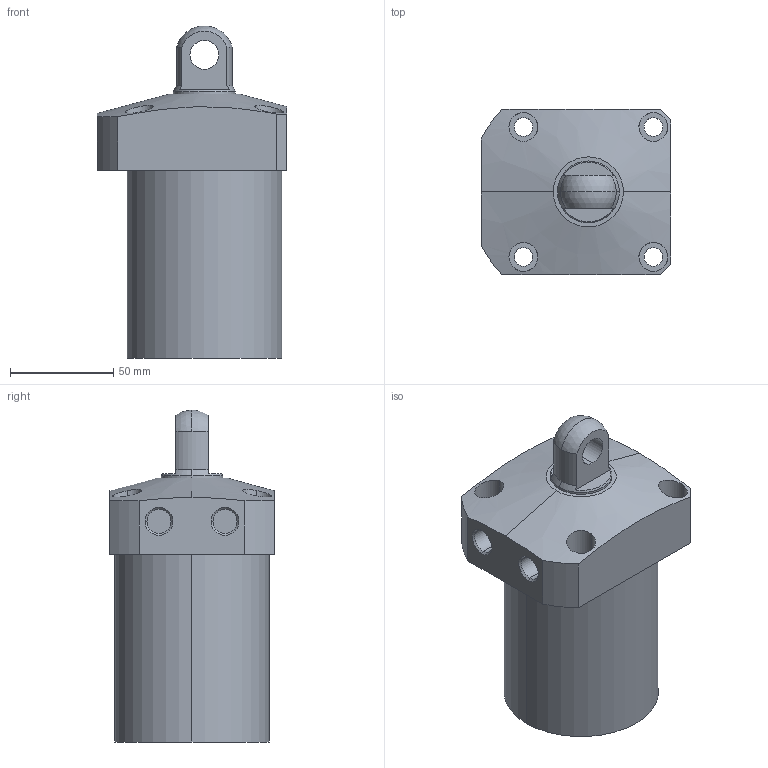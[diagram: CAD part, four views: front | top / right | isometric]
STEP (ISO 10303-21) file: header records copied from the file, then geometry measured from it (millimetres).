
FILE_DESCRIPTION (( 'STEP AP203' ), '1' );
FILE_NAME ('CLL-075CP-75.STEP', '2019-12-20T08:34:27', ( '' ), ( '' ), 'SwSTEP 2.0', 'SolidWorks 2015', '' );
FILE_SCHEMA (( 'CONFIG_CONTROL_DESIGN' ));
Length unit declared in the file: millimetre
Products named in the file (1): CLL-075CP-75
Bounding box: 92 x 80 x 161 mm (x, y, z)
Volume: 631495.4 mm3; surface area: 52711 mm2
Topology: 1 solids, 1 shells, 66 faces, 155 edges, 101 vertices
Faces by surface type: cylinder 35, plane 21, cone 8, sphere 2
Entity records: 2408 total; most frequent: CARTESIAN_POINT 755, DIRECTION 345, ORIENTED_EDGE 310, EDGE_CURVE 155, AXIS2_PLACEMENT_3D 143, VERTEX_POINT 101, EDGE_LOOP 86, CIRCLE 76
